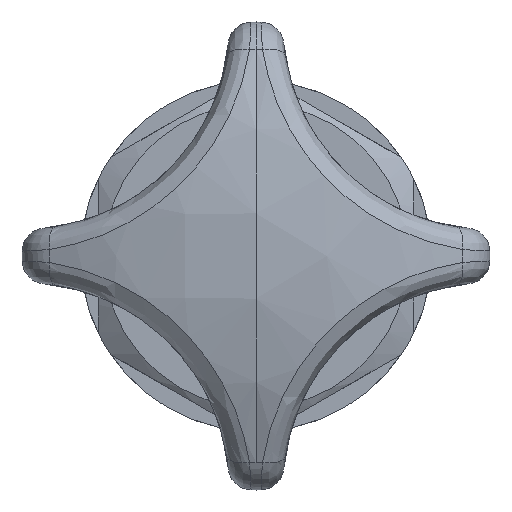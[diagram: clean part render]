
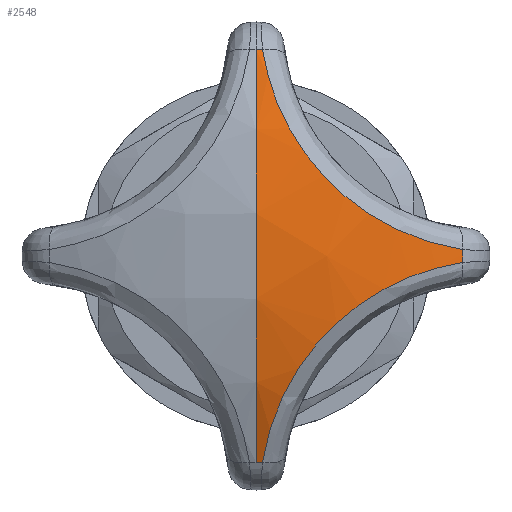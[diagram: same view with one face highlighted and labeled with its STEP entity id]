
A CAD part, left-side view. The second image highlights one B-rep face of the part: STEP entity #2548.
In plain terms, the highlighted spherical face has radius 42.5 mm.
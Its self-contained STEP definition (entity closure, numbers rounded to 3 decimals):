
#76 = CARTESIAN_POINT ( 'NONE',  ( -29.13, -12.645, 1.991 ) ) ;
#116 = VERTEX_POINT ( 'NONE', #3217 ) ;
#188 = CARTESIAN_POINT ( 'NONE',  ( -27.486, -0.632, 17.148 ) ) ;
#190 = CARTESIAN_POINT ( 'NONE',  ( -27.256, -0.553, -17.654 ) ) ;
#432 = CARTESIAN_POINT ( 'NONE',  ( -27.256, -17.654, -0.553 ) ) ;
#613 = CARTESIAN_POINT ( 'NONE',  ( -28.123, -0.942, -15.636 ) ) ;
#820 = FACE_OUTER_BOUND ( 'NONE', #6279, .T. ) ;
#889 = CARTESIAN_POINT ( 'NONE',  ( -29.152, -1.981, 12.613 ) ) ;
#976 = VERTEX_POINT ( 'NONE', #9489 ) ;
#1031 = ORIENTED_EDGE ( 'NONE', *, *, #1776, .T. ) ;
#1096 = VERTEX_POINT ( 'NONE', #2667 ) ;
#1152 = SPHERICAL_SURFACE ( 'NONE', #5511, 42.5 ) ;
#1439 = CARTESIAN_POINT ( 'NONE',  ( -27.256, -17.654, -0.553 ) ) ;
#1465 = CARTESIAN_POINT ( 'NONE',  ( -29.523, -11.16, -2.706 ) ) ;
#1707 = AXIS2_PLACEMENT_3D ( 'NONE', #8095, #4627, #6316 ) ;
#1760 = EDGE_CURVE ( 'NONE', #116, #3292, #7721, .T. ) ;
#1776 = EDGE_CURVE ( 'NONE', #976, #3841, #9601, .T. ) ;
#1826 = CARTESIAN_POINT ( 'NONE',  ( -27.256, 0., -17.662 ) ) ;
#1871 = AXIS2_PLACEMENT_3D ( 'NONE', #11163, #6125, #9658 ) ;
#1918 = DIRECTION ( 'NONE',  ( 1., 0., 0. ) ) ;
#1936 = ORIENTED_EDGE ( 'NONE', *, *, #1760, .T. ) ;
#2107 = CARTESIAN_POINT ( 'NONE',  ( -30.137, -5.523, -7.125 ) ) ;
#2548 = ADVANCED_FACE ( 'NONE', ( #820 ), #1152, .T. ) ;
#2623 = CARTESIAN_POINT ( 'NONE',  ( -27.716, -16.643, 0.71 ) ) ;
#2667 = CARTESIAN_POINT ( 'NONE',  ( -27.256, -0.553, 17.654 ) ) ;
#2720 = CARTESIAN_POINT ( 'NONE',  ( -29.271, -12.147, 2.214 ) ) ;
#2791 = CARTESIAN_POINT ( 'NONE',  ( -29.645, -10.685, 2.942 ) ) ;
#2805 = EDGE_CURVE ( 'NONE', #3292, #9565, #4068, .T. ) ;
#2841 = CARTESIAN_POINT ( 'NONE',  ( -30.023, -8.411, 4.464 ) ) ;
#2912 = EDGE_CURVE ( 'NONE', #9565, #1096, #6106, .T. ) ;
#2920 = CARTESIAN_POINT ( 'NONE',  ( 11.4, 0., 0. ) ) ;
#2952 = CARTESIAN_POINT ( 'NONE',  ( -29.833, -3.504, -9.75 ) ) ;
#3124 = CARTESIAN_POINT ( 'NONE',  ( -28.115, -15.627, -0.965 ) ) ;
#3189 = CARTESIAN_POINT ( 'NONE',  ( -30.154, -7.086, -5.527 ) ) ;
#3217 = CARTESIAN_POINT ( 'NONE',  ( -27.256, -0.553, -17.654 ) ) ;
#3292 = VERTEX_POINT ( 'NONE', #1439 ) ;
#3531 = CARTESIAN_POINT ( 'NONE',  ( -29.833, -9.75, 3.504 ) ) ;
#3578 = CARTESIAN_POINT ( 'NONE',  ( -30.072, -7.975, 4.803 ) ) ;
#3590 = CARTESIAN_POINT ( 'NONE',  ( -27.256, 0., 0. ) ) ;
#3841 = VERTEX_POINT ( 'NONE', #1826 ) ;
#3981 = CARTESIAN_POINT ( 'NONE',  ( -28.825, -1.592, -13.638 ) ) ;
#4068 = CIRCLE ( 'NONE', #9975, 17.662 ) ;
#4457 = CARTESIAN_POINT ( 'NONE',  ( -28.123, -15.636, 0.942 ) ) ;
#4558 = CARTESIAN_POINT ( 'NONE',  ( -27.256, -17.654, 0.553 ) ) ;
#4627 = DIRECTION ( 'NONE',  ( -1., 0., 0. ) ) ;
#4884 = CARTESIAN_POINT ( 'NONE',  ( -29.13, -1.991, -12.645 ) ) ;
#4952 = CARTESIAN_POINT ( 'NONE',  ( -27.486, -17.148, -0.632 ) ) ;
#5163 = CIRCLE ( 'NONE', #10723, 17.662 ) ;
#5176 = DIRECTION ( 'NONE',  ( 0., 0., 1. ) ) ;
#5357 = CARTESIAN_POINT ( 'NONE',  ( -28.659, -14.136, 1.414 ) ) ;
#5511 = AXIS2_PLACEMENT_3D ( 'NONE', #2920, #8988, #1918 ) ;
#5522 = CIRCLE ( 'NONE', #1707, 17.662 ) ;
#5642 = CARTESIAN_POINT ( 'NONE',  ( -30.091, -7.929, -4.812 ) ) ;
#5817 = ORIENTED_EDGE ( 'NONE', *, *, #9590, .T. ) ;
#6106 = B_SPLINE_CURVE_WITH_KNOTS ( 'NONE', 3,
 ( #4558, #2623, #4457, #5357, #10763, #76, #2720, #2791, #3531, #2841, #3578, #7092, #9893, #8079, #7048, #10634, #6236, #8956, #9780, #889, #6301, #10585, #10533, #9672, #188, #8907 ),
 .UNSPECIFIED., .F., .F.,
 ( 4, 2, 2, 2, 2, 2, 2, 2, 2, 2, 2, 2, 4 ),
 ( 0., 0.003, 0.005, 0.007, 0.01, 0.012, 0.013, 0.017, 0.018, 0.02, 0.023, 0.025, 0.027 ),
 .UNSPECIFIED. ) ;
#6125 = DIRECTION ( 'NONE',  ( 0., -1., 0. ) ) ;
#6236 = CARTESIAN_POINT ( 'NONE',  ( -29.822, -3.54, 9.735 ) ) ;
#6279 = EDGE_LOOP ( 'NONE', ( #10666, #1031, #5817, #1936, #8951, #9831 ) ) ;
#6301 = CARTESIAN_POINT ( 'NONE',  ( -28.848, -1.583, 13.604 ) ) ;
#6316 = DIRECTION ( 'NONE',  ( 0., 0., 1. ) ) ;
#6474 = CARTESIAN_POINT ( 'NONE',  ( -29.822, -9.735, -3.54 ) ) ;
#6643 = CARTESIAN_POINT ( 'NONE',  ( -29.645, -2.942, -10.685 ) ) ;
#7048 = CARTESIAN_POINT ( 'NONE',  ( -30.091, -4.812, 7.929 ) ) ;
#7092 = CARTESIAN_POINT ( 'NONE',  ( -30.137, -7.125, 5.523 ) ) ;
#7445 = CARTESIAN_POINT ( 'NONE',  ( -27.716, -0.71, -16.643 ) ) ;
#7503 = CARTESIAN_POINT ( 'NONE',  ( -29.271, -2.214, -12.147 ) ) ;
#7570 = CARTESIAN_POINT ( 'NONE',  ( -28.659, -1.414, -14.136 ) ) ;
#7721 = B_SPLINE_CURVE_WITH_KNOTS ( 'NONE', 3,
 ( #190, #7445, #613, #7570, #3981, #4884, #7503, #6643, #2952, #9293, #8433, #2107, #10997, #3189, #5642, #9181, #6474, #8319, #1465, #10071, #11122, #11059, #3124, #9350, #4952, #432 ),
 .UNSPECIFIED., .F., .F.,
 ( 4, 2, 2, 2, 2, 2, 2, 2, 2, 2, 2, 2, 4 ),
 ( 0., 0.003, 0.005, 0.007, 0.01, 0.012, 0.013, 0.017, 0.018, 0.02, 0.023, 0.025, 0.027 ),
 .UNSPECIFIED. ) ;
#7731 = CARTESIAN_POINT ( 'NONE',  ( -27.256, 0., 0. ) ) ;
#8079 = CARTESIAN_POINT ( 'NONE',  ( -30.154, -5.527, 7.086 ) ) ;
#8095 = CARTESIAN_POINT ( 'NONE',  ( -27.256, 0., 0. ) ) ;
#8098 = DIRECTION ( 'NONE',  ( -1., 0., 0. ) ) ;
#8319 = CARTESIAN_POINT ( 'NONE',  ( -29.632, -10.681, -2.969 ) ) ;
#8433 = CARTESIAN_POINT ( 'NONE',  ( -30.072, -4.803, -7.975 ) ) ;
#8865 = DIRECTION ( 'NONE',  ( 0., 0., 1. ) ) ;
#8907 = CARTESIAN_POINT ( 'NONE',  ( -27.256, -0.553, 17.654 ) ) ;
#8951 = ORIENTED_EDGE ( 'NONE', *, *, #2805, .T. ) ;
#8956 = CARTESIAN_POINT ( 'NONE',  ( -29.632, -2.969, 10.681 ) ) ;
#8988 = DIRECTION ( 'NONE',  ( 0., -1., 0. ) ) ;
#9181 = CARTESIAN_POINT ( 'NONE',  ( -29.901, -9.272, -3.845 ) ) ;
#9293 = CARTESIAN_POINT ( 'NONE',  ( -30.023, -4.464, -8.411 ) ) ;
#9350 = CARTESIAN_POINT ( 'NONE',  ( -27.704, -16.641, -0.729 ) ) ;
#9489 = CARTESIAN_POINT ( 'NONE',  ( -27.256, 0., 17.662 ) ) ;
#9565 = VERTEX_POINT ( 'NONE', #11217 ) ;
#9590 = EDGE_CURVE ( 'NONE', #3841, #116, #5163, .T. ) ;
#9601 = CIRCLE ( 'NONE', #1871, 42.5 ) ;
#9658 = DIRECTION ( 'NONE',  ( 1., 0., 0. ) ) ;
#9672 = CARTESIAN_POINT ( 'NONE',  ( -27.704, -0.729, 16.641 ) ) ;
#9780 = CARTESIAN_POINT ( 'NONE',  ( -29.523, -2.706, 11.16 ) ) ;
#9831 = ORIENTED_EDGE ( 'NONE', *, *, #2912, .T. ) ;
#9893 = CARTESIAN_POINT ( 'NONE',  ( -30.153, -6.71, 5.905 ) ) ;
#9975 = AXIS2_PLACEMENT_3D ( 'NONE', #3590, #8098, #8865 ) ;
#10071 = CARTESIAN_POINT ( 'NONE',  ( -29.152, -12.613, -1.981 ) ) ;
#10521 = EDGE_CURVE ( 'NONE', #1096, #976, #5522, .T. ) ;
#10533 = CARTESIAN_POINT ( 'NONE',  ( -28.115, -0.965, 15.627 ) ) ;
#10585 = CARTESIAN_POINT ( 'NONE',  ( -28.309, -1.105, 15.118 ) ) ;
#10634 = CARTESIAN_POINT ( 'NONE',  ( -29.901, -3.845, 9.272 ) ) ;
#10666 = ORIENTED_EDGE ( 'NONE', *, *, #10521, .T. ) ;
#10723 = AXIS2_PLACEMENT_3D ( 'NONE', #7731, #11281, #5176 ) ;
#10763 = CARTESIAN_POINT ( 'NONE',  ( -28.825, -13.638, 1.592 ) ) ;
#10997 = CARTESIAN_POINT ( 'NONE',  ( -30.153, -5.905, -6.71 ) ) ;
#11059 = CARTESIAN_POINT ( 'NONE',  ( -28.309, -15.118, -1.105 ) ) ;
#11122 = CARTESIAN_POINT ( 'NONE',  ( -28.848, -13.604, -1.583 ) ) ;
#11163 = CARTESIAN_POINT ( 'NONE',  ( 11.4, 0., 0. ) ) ;
#11217 = CARTESIAN_POINT ( 'NONE',  ( -27.256, -17.654, 0.553 ) ) ;
#11281 = DIRECTION ( 'NONE',  ( -1., 0., 0. ) ) ;
